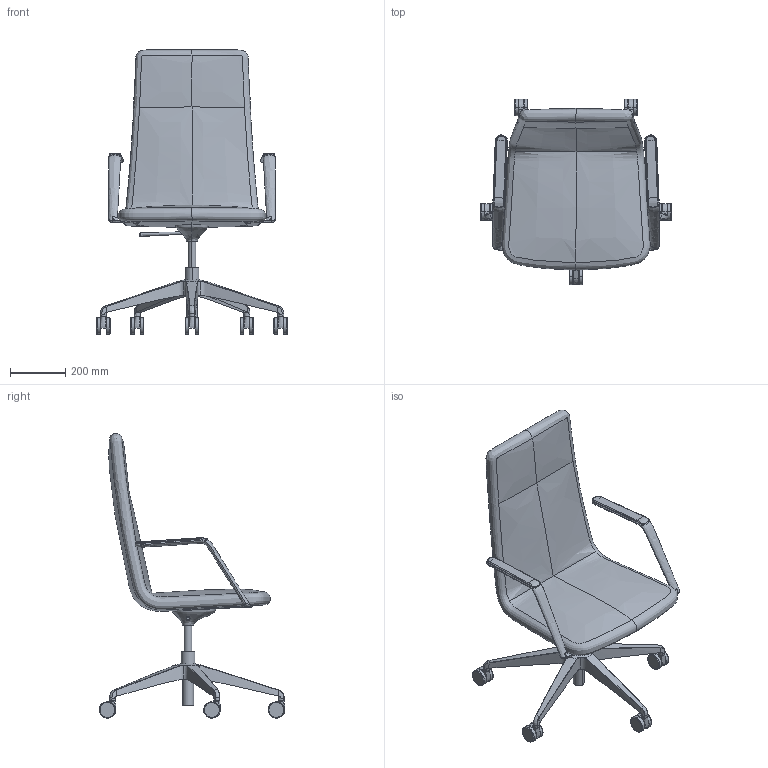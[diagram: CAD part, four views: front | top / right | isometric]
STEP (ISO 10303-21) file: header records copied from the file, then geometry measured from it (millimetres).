
FILE_DESCRIPTION(/* description */ (''),/* implementation_level */ '2;1');
FILE_NAME(/* name */ 'HARMON~3',/* time_stamp */ '2016-09-30T16:40:35+02:00',/* author */ (''),/* organization */ (''),/* preprocessor_version */ 'ST-DEVELOPER v15',/* originating_system */ '',/* authorisation */ '');
FILE_SCHEMA (('CONFIG_CONTROL_DESIGN'));
Length unit declared in the file: millimetre
Products named in the file (1): Document
Bounding box: 694.82 x 673.73 x 1032.35 mm (x, y, z)
Volume: 28500289.1 mm3; surface area: 1562343.9 mm2
Topology: 2 solids, 36 shells, 335 faces, 794 edges, 459 vertices
Faces by surface type: bspline 270, plane 65
Entity records: 23634 total; most frequent: CARTESIAN_POINT 19235, ORIENTED_EDGE 1390, EDGE_CURVE 762, VERTEX_POINT 453, B_SPLINE_CURVE_WITH_KNOTS 338, ADVANCED_FACE 335, FACE_OUTER_BOUND 335, EDGE_LOOP 335
